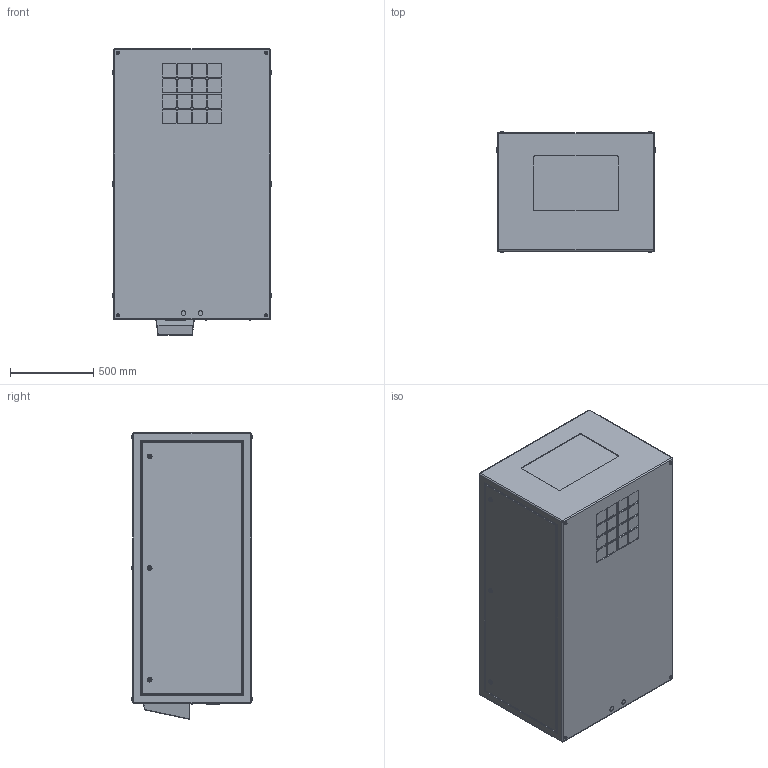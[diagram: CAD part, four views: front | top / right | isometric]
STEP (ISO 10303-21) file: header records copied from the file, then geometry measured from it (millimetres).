
FILE_DESCRIPTION (( 'STEP AP214' ), '1' );
FILE_NAME ('Cyclone 55.522.L R10.STEP', '2022-09-08T22:08:01', ( '' ), ( '' ), 'SwSTEP 2.0', 'SolidWorks 2020', '' );
FILE_SCHEMA (( 'AUTOMOTIVE_DESIGN' ));
Length unit declared in the file: inch
Products named in the file (1): Cyclone 55.522.L R10
Bounding box: 952.5 x 725.8 x 1720.85 mm (x, y, z)
Volume: 1084781119.2 mm3; surface area: 7229317.1 mm2
Topology: 1 solids, 7 shells, 532 faces, 1256 edges, 804 vertices
Faces by surface type: plane 260, cylinder 220, torus 44, sphere 8
Entity records: 19357 total; most frequent: CARTESIAN_POINT 3161, DIRECTION 2694, ORIENTED_EDGE 2496, EDGE_CURVE 1248, AXIS2_PLACEMENT_3D 1009, VERTEX_POINT 804, LINE 676, VECTOR 676
